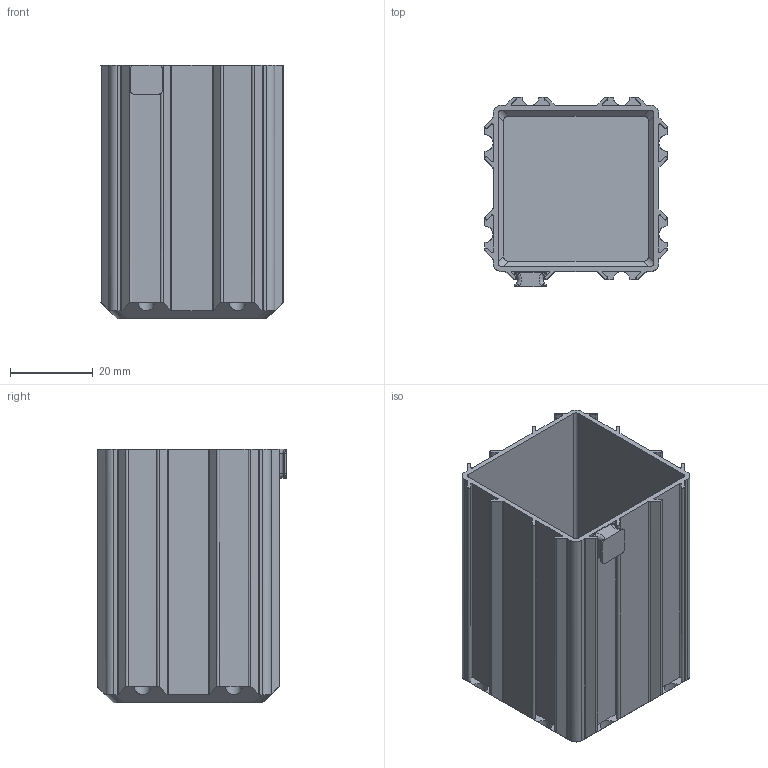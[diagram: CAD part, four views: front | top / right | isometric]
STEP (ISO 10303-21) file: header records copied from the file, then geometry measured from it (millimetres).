
FILE_DESCRIPTION(/* description */ (''),/* implementation_level */ '2;1');
FILE_NAME(/* name */ 'BOX_x02_y02_z060_tx0_ty0.stp',/* time_stamp */ '2024-02-16T08:37:07+01:00',/* author */ ('ott'),/* organization */ (''),/* preprocessor_version */ 'ST-DEVELOPER v19.2',/* originating_system */ 'Autodesk Inventor 2023',/* authorisation */ '');
FILE_SCHEMA (('AUTOMOTIVE_DESIGN { 1 0 10303 214 3 1 1 }'));
Length unit declared in the file: millimetre
Products named in the file (1): BOX_x02_y02_z060_tx0_ty0
Bounding box: 44 x 45.8 x 61.2 mm (x, y, z)
Volume: 14967.2 mm3; surface area: 25594.5 mm2
Topology: 2 solids, 2 shells, 179 faces, 500 edges, 326 vertices
Faces by surface type: plane 95, cylinder 80, torus 4
Entity records: 6084 total; most frequent: CARTESIAN_POINT 1094, DIRECTION 1036, ORIENTED_EDGE 1000, EDGE_CURVE 500, AXIS2_PLACEMENT_3D 364, VERTEX_POINT 326, LINE 308, VECTOR 308
